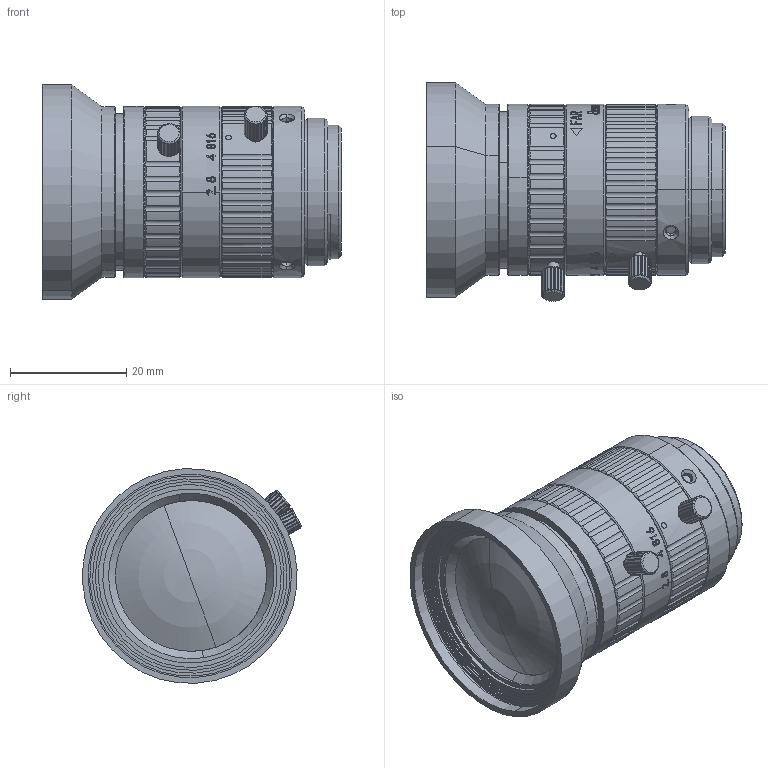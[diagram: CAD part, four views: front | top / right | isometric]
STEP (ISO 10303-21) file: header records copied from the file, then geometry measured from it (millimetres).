
FILE_DESCRIPTION (( 'STEP AP203' ), '1' );
FILE_NAME ('FAU0824MC.HR-H-輪扜擒.STEP', '2025-11-04T10:18:55', ( '' ), ( '' ), 'SwSTEP 2.0', 'SolidWorks 2019', '' );
FILE_SCHEMA (( 'CONFIG_CONTROL_DESIGN' ));
Length unit declared in the file: millimetre
Products named in the file (1): FAU0824MC.HR-H-輪扜擒
Bounding box: 51.4 x 37.67 x 36.93 mm (x, y, z)
Volume: 32520.9 mm3; surface area: 8819.9 mm2
Topology: 1 solids, 2 shells, 865 faces, 2323 edges, 1520 vertices
Faces by surface type: plane 338, cylinder 324, bspline 109, cone 89, sphere 5
Entity records: 43865 total; most frequent: CARTESIAN_POINT 23744, ORIENTED_EDGE 4634, DIRECTION 3548, EDGE_CURVE 2317, VERTEX_POINT 1518, AXIS2_PLACEMENT_3D 1444, B_SPLINE_CURVE_WITH_KNOTS 970, EDGE_LOOP 935
